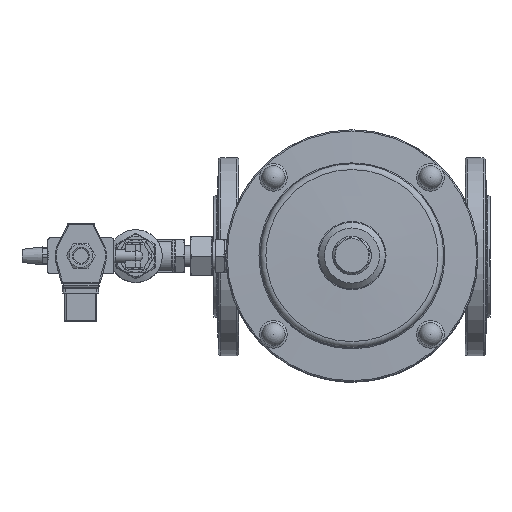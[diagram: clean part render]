
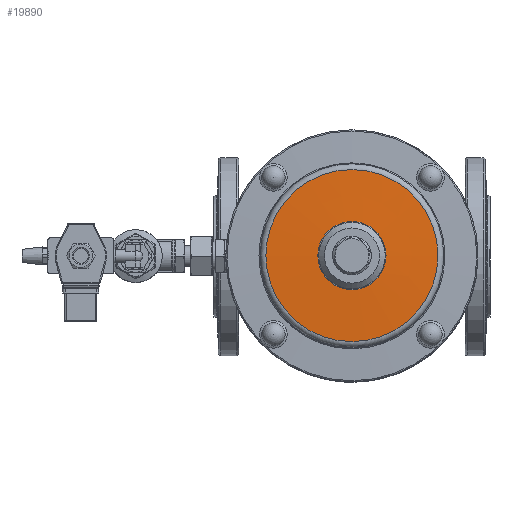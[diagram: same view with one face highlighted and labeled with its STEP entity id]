
A CAD part, top view. The second image highlights one B-rep face of the part: STEP entity #19890.
In plain terms, the highlighted conical face has half-angle 88 degrees and reference radius 52.247 mm.
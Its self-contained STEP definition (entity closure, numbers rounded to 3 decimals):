
#19692=CARTESIAN_POINT('',(-71.674,0.,551.275));
#19693=VERTEX_POINT('',#19692);
#19694=CARTESIAN_POINT('',(0.,0.,551.275));
#19695=DIRECTION('',(0.0,0.0,-1.0));
#19696=DIRECTION('',(1.0,0.0,0.0));
#19697=AXIS2_PLACEMENT_3D('',#19694,#19695,#19696);
#19698=CIRCLE('',#19697,71.674);
#19699=EDGE_CURVE('',#19693,#19693,#19698,.T.);
#19871=CARTESIAN_POINT('',(0.,0.,551.953));
#19872=DIRECTION('',(0.,0.,-1.0));
#19873=DIRECTION('',(-1.0,0.0,0.0));
#19874=AXIS2_PLACEMENT_3D('',#19871,#19872,#19873);
#19875=CONICAL_SURFACE('',#19874,52.247,88.);
#19876=ORIENTED_EDGE('',*,*,#19699,.F.);
#19877=EDGE_LOOP('',(#19876));
#19878=FACE_OUTER_BOUND('',#19877,.T.);
#19879=CARTESIAN_POINT('',(-28.387,0.,552.786));
#19880=VERTEX_POINT('',#19879);
#19881=CARTESIAN_POINT('',(0.,0.,552.786));
#19882=DIRECTION('',(0.0,0.0,1.0));
#19883=DIRECTION('',(1.0,0.0,0.0));
#19884=AXIS2_PLACEMENT_3D('',#19881,#19882,#19883);
#19885=CIRCLE('',#19884,28.387);
#19886=EDGE_CURVE('',#19880,#19880,#19885,.T.);
#19887=ORIENTED_EDGE('',*,*,#19886,.F.);
#19888=EDGE_LOOP('',(#19887));
#19889=FACE_BOUND('',#19888,.T.);
#19890=ADVANCED_FACE('',(#19878,#19889),#19875,.T.);
